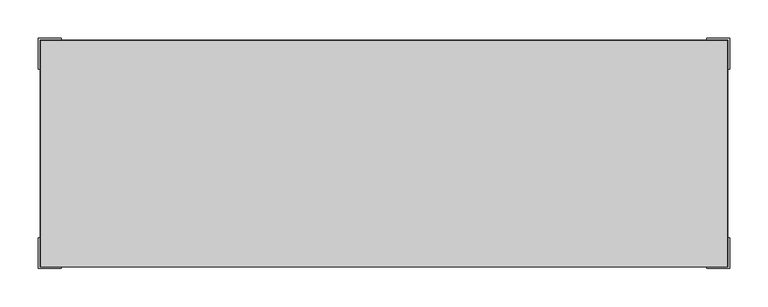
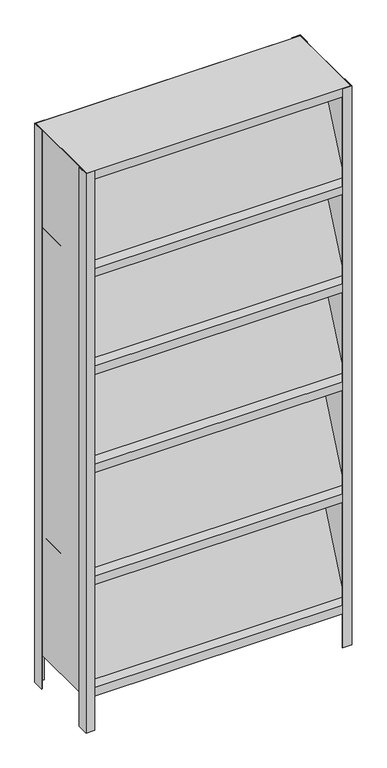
"""IFC4 building model written with IfcOpenShell, lengths in millimetres: furniture geometry, FDE_ES05_EstanteParaExposição : ES05_EstanteParaExposição."""

import ifcopenshell
import ifcopenshell.guid

model = None  # the IFC model being written
_history = None  # IfcOwnerHistory: only IFC2X3 demands one
_inside = {}  # id of a spatial element -> (the spatial element, [elements in it])
_under = {}  # id of a project, library or spatial element -> (it, [spatial elements below it])
_declared = {}  # id of a project -> (the project, [libraries it declares])
_typed = {}  # id of a type object -> (the type object, [elements of that type])
_made_of = {}  # id of a material, layer set ... -> (it, [elements and type objects made of it])


def new_model(schema):
    """Start an empty IFC model of exactly this schema.

    Asked for "IFC4X3", IfcOpenShell would pick the latest addendum, in which some entities
    have other attributes; the version numbers below select the first issue.
    IFC2X3 requires an IfcOwnerHistory on every rooted entity: one is made here for all.
    """
    global model, _history
    if schema == "IFC4X3":
        model = ifcopenshell.file(schema_version=(4, 3, 0, 0))
    else:
        model = ifcopenshell.file(schema=schema)
    _inside.clear()
    _under.clear()
    _declared.clear()
    _typed.clear()
    _made_of.clear()
    _history = None
    if model.schema == "IFC2X3":
        org = make("IfcOrganization", Name="unknown")
        user = make(
            "IfcPersonAndOrganization",
            ThePerson=make("IfcPerson", FamilyName="unknown"),
            TheOrganization=org,
        )
        app = make(
            "IfcApplication",
            ApplicationDeveloper=org,
            Version="unknown",
            ApplicationFullName="unknown",
            ApplicationIdentifier="unknown",
        )
        _history = make(
            "IfcOwnerHistory",
            OwningUser=user,
            OwningApplication=app,
            ChangeAction="ADDED",
            CreationDate=0,
        )
    return model


def make(cls, **values):
    """One entity of the class cls with the attributes given. An attribute that is None is left unset."""
    return model.create_entity(
        cls, **{name: value for name, value in values.items() if value is not None}
    )


def rooted(cls, **values):
    """An entity with a GlobalId (a new one), such as an element, a storey or a relation."""
    return make(cls, GlobalId=ifcopenshell.guid.new(), OwnerHistory=_history, **values)


def si_unit(unit_type, name, prefix=None):
    """IfcSIUnit, for example si_unit("LENGTHUNIT", "METRE", prefix="MILLI")."""
    return make("IfcSIUnit", UnitType=unit_type, Prefix=prefix, Name=name)


def assignment(units):
    """IfcUnitAssignment: the units of a project."""
    return None if units is None else make("IfcUnitAssignment", Units=units)


def point(xyz):
    """IfcCartesianPoint."""
    return None if xyz is None else make("IfcCartesianPoint", Coordinates=xyz)


def direction(xyz):
    """IfcDirection."""
    return None if xyz is None else make("IfcDirection", DirectionRatios=xyz)


def frame(location, z_axis=None, x_axis=None):
    """IfcAxis2Placement3D, a coordinate frame: its origin and axes. An axis left out is left unset."""
    return make(
        "IfcAxis2Placement3D",
        Location=point(location),
        Axis=direction(z_axis),
        RefDirection=direction(x_axis),
    )


def origin():
    """The frame at (0, 0, 0) with its axes left unset."""
    return frame((0.0, 0.0, 0.0))


def origin_with_axes():
    """The frame at (0, 0, 0) with the z axis (0, 0, 1) and the x axis (1, 0, 0) written out."""
    return frame((0.0, 0.0, 0.0), z_axis=(0.0, 0.0, 1.0), x_axis=(1.0, 0.0, 0.0))


def place(relative_to, where):
    """IfcLocalPlacement: puts the frame where relative to a parent placement (None: the world)."""
    return make(
        "IfcLocalPlacement", PlacementRelTo=relative_to, RelativePlacement=where
    )


def context(
    kind, dimensions, precision=None, world=None, true_north=None, identifier=None
):
    """IfcGeometricRepresentationContext, for example the 3D "Model" context."""
    return make(
        "IfcGeometricRepresentationContext",
        ContextIdentifier=identifier,
        ContextType=kind,
        CoordinateSpaceDimension=dimensions,
        Precision=precision,
        WorldCoordinateSystem=world,
        TrueNorth=true_north,
    )


def project(units=None, contexts=None):
    """IfcProject with its units and contexts."""
    return rooted(
        "IfcProject",
        Name="project",
        RepresentationContexts=contexts,
        UnitsInContext=assignment(units),
    )


def spatial(cls, under=None, at=None, **own):
    """A site, building, storey or space (cls), placed at a placement, below another one or the project."""
    s = rooted(cls, ObjectPlacement=at, **own)
    if under is not None:
        _under.setdefault(under.id(), (under, []))[1].append(s)
    return s


def polyline(points):
    """IfcPolyline through the points."""
    return make("IfcPolyline", Points=[point(p) for p in points])


def outline(outer, holes=None, kind="AREA"):
    """IfcArbitraryClosedProfileDef: a profile drawn as a closed curve; with holes, ...WithVoids."""
    if holes is None:
        return make("IfcArbitraryClosedProfileDef", ProfileType=kind, OuterCurve=outer)
    return make(
        "IfcArbitraryProfileDefWithVoids",
        ProfileType=kind,
        OuterCurve=outer,
        InnerCurves=holes,
    )


def extrude(swept, where, along, depth):
    """IfcExtrudedAreaSolid: the profile swept, set in the frame where, extruded along a direction by depth."""
    return make(
        "IfcExtrudedAreaSolid",
        SweptArea=swept,
        Position=where,
        ExtrudedDirection=direction(along),
        Depth=depth,
    )


def shape(context_of_items, identifier, shape_type, items):
    """IfcShapeRepresentation: the items that make up one representation, for example the "Body"."""
    return make(
        "IfcShapeRepresentation",
        ContextOfItems=context_of_items,
        RepresentationIdentifier=identifier,
        RepresentationType=shape_type,
        Items=items,
    )


def source(mapping_origin, context_of_items, identifier, shape_type, items):
    """IfcRepresentationMap: a shape defined once, which mapped items show again and again."""
    return make(
        "IfcRepresentationMap",
        MappingOrigin=mapping_origin,
        MappedRepresentation=shape(context_of_items, identifier, shape_type, items),
    )


def transform(
    local_origin,
    x_axis=None,
    y_axis=None,
    z_axis=None,
    scale=None,
    scale2=None,
    scale3=None,
    uniform=True,
):
    """IfcCartesianTransformationOperator3D, or its non-uniform kind. x_axis, y_axis, z_axis: its Axis1, 2, 3."""
    if uniform:
        return make(
            "IfcCartesianTransformationOperator3D",
            Axis1=direction(x_axis),
            Axis2=direction(y_axis),
            LocalOrigin=point(local_origin),
            Scale=scale,
            Axis3=direction(z_axis),
        )
    return make(
        "IfcCartesianTransformationOperator3DnonUniform",
        Axis1=direction(x_axis),
        Axis2=direction(y_axis),
        LocalOrigin=point(local_origin),
        Scale=scale,
        Axis3=direction(z_axis),
        Scale2=scale2,
        Scale3=scale3,
    )


def mapped(mapping_source, mapping_target):
    """IfcMappedItem: shows the shape of a source again, moved by a transform."""
    return make(
        "IfcMappedItem", MappingSource=mapping_source, MappingTarget=mapping_target
    )


def made_of(thing, what):
    """Note that an element or type object is made of a material, layer set ...; save() writes the relation."""
    if what is not None:
        _made_of.setdefault(what.id(), (what, []))[1].append(thing)
    return thing


def element(
    cls,
    number,
    at=None,
    inside=None,
    cuts=None,
    type_object=None,
    material=None,
    context=None,
    identifier="Body",
    shape_type=None,
    held_by="IfcProductDefinitionShape",
    body=None,
    shapes=None,
    **own,
):
    """One element of the class cls, such as IfcWall. Its Tag is "e" and its number.

    at: its placement. inside: the storey or other place that contains it. cuts: it is an
    opening in that element (IfcRelVoidsElement). A single representation is given by context,
    identifier, shape_type and body (its items); several are given by shapes. held_by: the class
    of the entity that holds the representations. save() writes the other relations.
    """
    e = rooted(cls, Tag="e%d" % number, ObjectPlacement=at, **own)
    if body is not None:
        shapes = [shape(context, identifier, shape_type, body)]
    if shapes is not None:
        e.Representation = make(held_by, Representations=shapes)
    if inside is not None:
        _inside.setdefault(inside.id(), (inside, []))[1].append(e)
    if cuts is not None:
        rooted(
            "IfcRelVoidsElement", RelatingBuildingElement=cuts, RelatedOpeningElement=e
        )
    if type_object is not None:
        _typed.setdefault(type_object.id(), (type_object, []))[1].append(e)
    return made_of(e, material)


def aggregate(whole, parts):
    """IfcRelAggregates: a whole, such as a stair, and the parts it consists of."""
    return rooted("IfcRelAggregates", RelatingObject=whole, RelatedObjects=parts)


def save(model, path):
    """Write the relations noted so far, then the file.

    IfcRelAggregates (storeys below a building ...), IfcRelContainedInSpatialStructure (elements
    in a storey), IfcRelDefinesByType, IfcRelAssociatesMaterial and IfcRelDeclares: one each for
    every whole, place, type object, material and project.
    """
    for whole, parts in _under.values():
        aggregate(whole, parts)
    for where, things in _inside.values():
        rooted(
            "IfcRelContainedInSpatialStructure",
            RelatedElements=things,
            RelatingStructure=where,
        )
    for kind, things in _typed.values():
        rooted("IfcRelDefinesByType", RelatedObjects=things, RelatingType=kind)
    for what, things in _made_of.values():
        rooted("IfcRelAssociatesMaterial", RelatedObjects=things, RelatingMaterial=what)
    for by, libraries in _declared.values():
        rooted("IfcRelDeclares", RelatingContext=by, RelatedDefinitions=libraries)
    model.write(path)


def furniture_3c5e9b6c(model_context):
    return source(origin(), model_context, "Body", "SweptSolid", [
        extrude(outline(polyline([(47.047357, 917.8805889), (74.6384011, 906.1020371), (-70.6304041, 565.8124924), (-110.0, 550.0), (47.047357, 917.8805889)])), frame((-446.0, 0.0, 0.0), z_axis=(1.0, 0.0, 0.0), x_axis=(0.0, 1.0, 0.0)), (0.0, 0.0, 1.0), 892.0),
        extrude(outline(polyline([(47.047357, 517.8805889), (74.6384011, 506.1020371), (-70.6304041, 165.8124924), (-110.0, 150.0), (47.047357, 517.8805889)])), frame((-446.0, 0.0, 0.0), z_axis=(1.0, 0.0, 0.0), x_axis=(0.0, 1.0, 0.0)), (0.0, 0.0, 1.0), 892.0),
        extrude(outline(polyline([(29.7838898, 1270.8745302), (57.287421, 1258.893054), (-70.5149926, 965.5220549), (-110.0, 950.0), (29.7838898, 1270.8745302)])), frame((-446.0, 0.0, 0.0), z_axis=(1.0, 0.0, 0.0), x_axis=(0.0, 1.0, 0.0)), (0.0, 0.0, 1.0), 892.0),
        extrude(outline(polyline([(29.7838898, 1620.8745302), (57.287421, 1608.893054), (-70.5149926, 1315.5220549), (-110.0, 1300.0), (29.7838898, 1620.8745302)])), frame((-446.0, 0.0, 0.0), z_axis=(1.0, 0.0, 0.0), x_axis=(0.0, 1.0, 0.0)), (0.0, 0.0, 1.0), 892.0),
        extrude(outline(polyline([(29.7838898, 1970.8745302), (57.287421, 1958.893054), (-70.5149926, 1665.5220549), (-110.0, 1650.0), (29.7838898, 1970.8745302)])), frame((-446.0, 0.0, 0.0), z_axis=(1.0, 0.0, 0.0), x_axis=(0.0, 1.0, 0.0)), (0.0, 0.0, 1.0), 892.0),
        extrude(outline(polyline([(446.95, 147.15), (446.95, -147.75), (-446.95, -147.75), (-446.95, 147.15), (446.95, 147.15)])), frame((0.0, 0.0, 1970.0), z_axis=(0.0, 0.0, 1.0), x_axis=(1.0, 0.0, 0.0)), (0.0, 0.0, 1.0), 30.0),
        extrude(outline(polyline([(446.95, 147.15), (446.95, -147.75), (-446.95, -147.75), (-446.95, 147.15), (446.95, 147.15)])), frame((0.0, 0.0, 1620.0), z_axis=(0.0, 0.0, 1.0), x_axis=(1.0, 0.0, 0.0)), (0.0, 0.0, 1.0), 30.0),
        extrude(outline(polyline([(446.95, 147.15), (446.95, -147.75), (-446.95, -147.75), (-446.95, 147.15), (446.95, 147.15)])), frame((0.0, 0.0, 1270.0), z_axis=(0.0, 0.0, 1.0), x_axis=(1.0, 0.0, 0.0)), (0.0, 0.0, 1.0), 30.0),
        extrude(outline(polyline([(446.95, 147.15), (446.95, -147.75), (-446.95, -147.75), (-446.95, 147.15), (446.95, 147.15)])), frame((0.0, 0.0, 920.0), z_axis=(0.0, 0.0, 1.0), x_axis=(1.0, 0.0, 0.0)), (0.0, 0.0, 1.0), 30.0),
        extrude(outline(polyline([(446.95, 147.15), (446.95, -147.75), (-446.95, -147.75), (-446.95, 147.15), (446.95, 147.15)])), frame((0.0, 0.0, 520.0), z_axis=(0.0, 0.0, 1.0), x_axis=(1.0, 0.0, 0.0)), (0.0, 0.0, 1.0), 30.0),
        extrude(outline(polyline([(446.95, 147.15), (446.95, -147.75), (-446.95, -147.75), (-446.95, 147.15), (446.95, 147.15)])), frame((0.0, 0.0, 120.0), z_axis=(0.0, 0.0, 1.0), x_axis=(1.0, 0.0, 0.0)), (0.0, 0.0, 1.0), 30.0),
        extrude(outline(polyline([(447.75, 147.75), (447.75, -147.75), (446.95, -147.75), (446.95, 147.15), (-446.95, 147.15), (-446.95, -147.75), (-447.75, -147.75), (-447.75, 147.75), (447.75, 147.75)])), frame((0.0, 0.0, 120.0), z_axis=(0.0, 0.0, 1.0), x_axis=(1.0, 0.0, 0.0)), (0.0, 0.0, 1.0), 1880.0),
        extrude(outline(polyline([(-420.0, 150.0), (-420.0, 147.75), (-447.75, 147.75), (-447.75, 110.0), (-450.0, 110.0), (-450.0, 150.0), (-420.0, 150.0)])), origin_with_axes(), (0.0, 0.0, 1.0), 2000.0),
        extrude(outline(polyline([(420.0, 150.0), (450.0, 150.0), (450.0, 110.0), (447.75, 110.0), (447.75, 147.75), (420.0, 147.75), (420.0, 150.0)])), origin_with_axes(), (0.0, 0.0, 1.0), 2000.0),
        extrude(outline(polyline([(-420.0, -150.0), (-450.0, -150.0), (-450.0, -110.0), (-447.75, -110.0), (-447.75, -147.75), (-420.0, -147.75), (-420.0, -150.0)])), origin_with_axes(), (0.0, 0.0, 1.0), 2000.0),
        extrude(outline(polyline([(420.0, -150.0), (420.0, -147.75), (447.75, -147.75), (447.75, -110.0), (450.0, -110.0), (450.0, -150.0), (420.0, -150.0)])), origin_with_axes(), (0.0, 0.0, 1.0), 2000.0),
    ])


if __name__ == "__main__":
    model = new_model("IFC4")
    model_context = context("Model", 3, world=origin())
    ifc_project = project(units=[si_unit("LENGTHUNIT", "METRE", prefix="MILLI")], contexts=[model_context])
    site = spatial("IfcSite", under=ifc_project)
    building = spatial("IfcBuilding", under=site)
    placement = place(None, origin())
    furniture_shape = furniture_3c5e9b6c(model_context)
    element("IfcFurniture", 1, ObjectType="FDE_ES05_EstanteParaExposição : ES05_EstanteParaExposição", at=placement, inside=building, context=model_context, shape_type="MappedRepresentation", body=[
        mapped(furniture_shape, transform((0.0, 0.0, 0.0), x_axis=(1.0, 0.0, 0.0), y_axis=(0.0, 1.0, 0.0), z_axis=(0.0, 0.0, 1.0))),
    ])
    save(model, "model.ifc")
